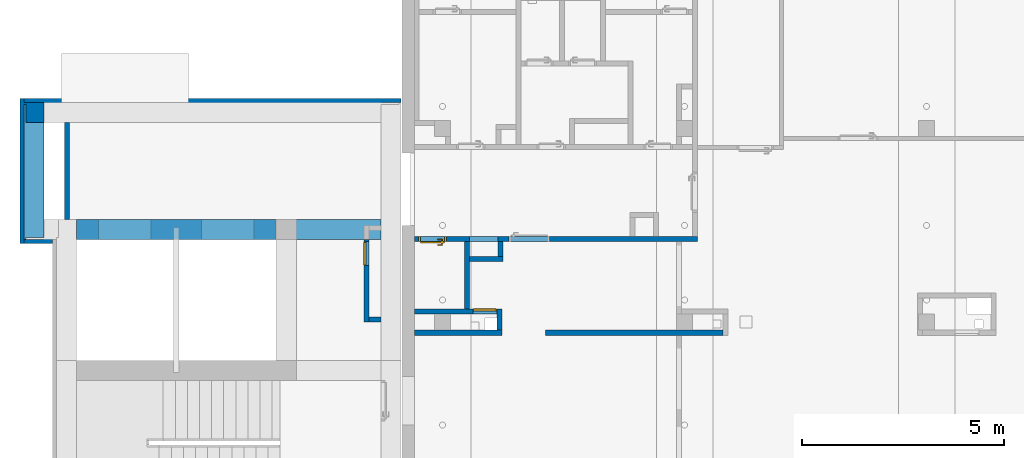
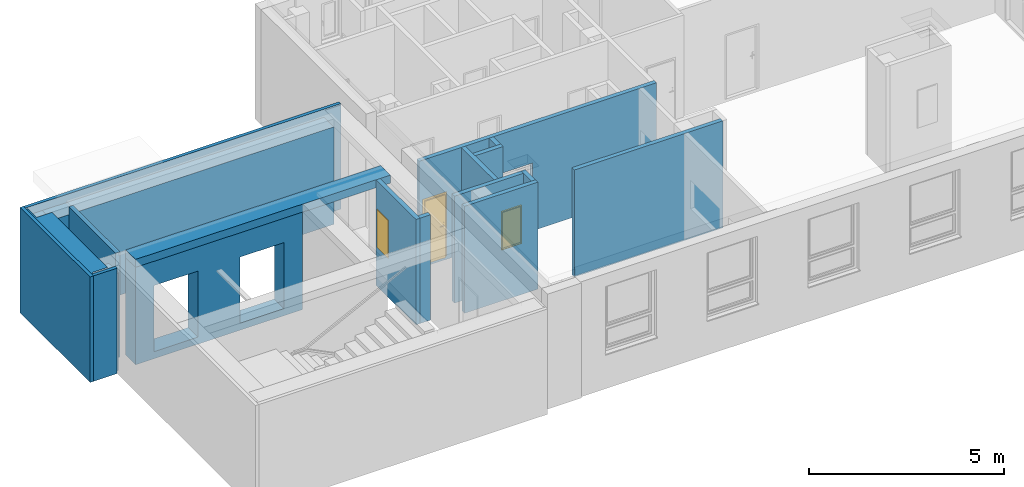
# One storey, part 8 of 50: 17 walls, 2 windows, 1 door, 7 openings.
"""IFC4 building model written with IfcOpenShell, lengths in metres."""

from ifc_helpers import new_model, entity, si_unit, converted_unit, derived_unit, frame, frame_2d, origin, origin_with_axes, place, context, subcontext, project, spatial, polyline, rectangle, outline, extrude, clip, bounded_halfspace, closed_shell, open_shell, faceted_brep, surface_model, source, transform, mapped, material, layer, layer_set, layer_usage, type_object, element, fill, save


model = new_model("IFC4")

# Units and contexts
model_context = context("Model", 3, precision=1e-05, world=origin())
body_context = subcontext(model_context, "Body", "Model", "MODEL_VIEW")
ifc_project = project(units=[si_unit("LENGTHUNIT", "METRE"), si_unit("AREAUNIT", "SQUARE_METRE"), si_unit("VOLUMEUNIT", "CUBIC_METRE"), si_unit("MASSUNIT", "GRAM", prefix="KILO"), converted_unit("PLANEANGLEUNIT", "DEGREE", entity("IfcPlaneAngleMeasure", 0.0174532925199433), si_unit("PLANEANGLEUNIT", "RADIAN"), dimensions=[0, 0, 0, 0, 0, 0, 0]), derived_unit("THERMALTRANSMITTANCEUNIT", [(si_unit("POWERUNIT", "WATT"), 1), (si_unit("THERMODYNAMICTEMPERATUREUNIT", "KELVIN"), -1), (si_unit("LENGTHUNIT", "METRE"), -2)]), derived_unit("VOLUMETRICFLOWRATEUNIT", [(si_unit("LENGTHUNIT", "METRE"), 3), (converted_unit("TIMEUNIT", "hour", entity("IfcTimeMeasure", 3600.0), si_unit("TIMEUNIT", "SECOND"), dimensions=[0, 0, 1, 0, 0, 0, 0]), -1), (si_unit("LENGTHUNIT", "METRE"), -1)])], contexts=[model_context])

# Site, building, storey
site_placement = place(None, origin())
site = spatial("IfcSite", under=ifc_project, at=site_placement, Name="3. ASŘ", CompositionType="ELEMENT")
building_placement = place(site_placement, origin())
building = spatial("IfcBuilding", under=site, at=building_placement, Name="Pavilon C", CompositionType="ELEMENT")
storey_placement = place(building_placement, frame((0.0, 0.0, 3.6)))
storey = spatial("IfcBuildingStorey", under=building, at=storey_placement, Name="Půdorys 2.NP", CompositionType="ELEMENT", Elevation=3.6)

# Walls
ifc_material_1 = material(Name="ZDIVO Z CDm")
ifc_layer_1 = layer(ifc_material_1, 0.125)
ifc_layer_set_1 = layer_set([ifc_layer_1])
ifc_layer_usage_1 = layer_usage(ifc_layer_set_1, "AXIS2", "POSITIVE", 0.0)
wall_1_placement = place(storey_placement, frame((6.95000000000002, 5.2, -0.1), z_axis=(0.0, 0.0, 1.0), x_axis=(-1.0, 0.0, 0.0)))
element("IfcWall", 1, at=wall_1_placement, inside=storey, material=ifc_layer_usage_1, Name="ZDIVO Z CDm", context=body_context, shape_type="SweptSolid", body=[
    extrude(rectangle(XDim=4.4, YDim=0.125, at=frame_2d((2.2, 0.0625), x_axis=(1.0, 0.0))), origin_with_axes(), (0.0, 0.0, 1.0), 3.35),
])
ifc_material_2 = material(Name="ZDIVO Z CDm")
ifc_layer_2 = layer(ifc_material_2, 0.125)
ifc_layer_set_2 = layer_set([ifc_layer_2])
ifc_layer_usage_2 = layer_usage(ifc_layer_set_2, "AXIS2", "POSITIVE", 0.0)
wall_2_placement = place(storey_placement, frame((1.47500000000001, 5.2, -0.1), z_axis=(0.0, 0.0, 1.0), x_axis=(-1.0, 0.0, 0.0)))
element("IfcWall", 2, at=wall_2_placement, inside=storey, material=ifc_layer_usage_2, Name="ZDIVO Z CDm", context=body_context, shape_type="SweptSolid", body=[
    extrude(rectangle(XDim=2.17500000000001, YDim=0.125, at=frame_2d((1.0875, 0.0625), x_axis=(1.0, 0.0))), origin_with_axes(), (0.0, 0.0, 1.0), 3.35),
])
ifc_material_3 = material(Name="ZDIVO Z CDm")
ifc_layer_3 = layer(ifc_material_3, 0.125)
ifc_layer_set_3 = layer_set([ifc_layer_3])
ifc_layer_usage_3 = layer_usage(ifc_layer_set_3, "AXIS2", "POSITIVE", 0.0)
wall_3_placement = place(storey_placement, frame((1.35000000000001, 5.72500000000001, -0.1), z_axis=(0.0, 0.0, 1.0), x_axis=(0.0, -1.0, 0.0)))
element("IfcWall", 3, at=wall_3_placement, inside=storey, material=ifc_layer_usage_3, Name="ZDIVO Z CDm", context=body_context, shape_type="SweptSolid", body=[
    extrude(rectangle(XDim=0.525000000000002, YDim=0.125, at=frame_2d((0.262500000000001, 0.0625), x_axis=(1.0, 0.0))), origin_with_axes(), (0.0, 0.0, 1.0), 3.35),
])

# Wall, opening, window
ifc_material_4 = material(Name="ZDIVO Z CDm")
ifc_layer_4 = layer(ifc_material_4, 0.125)
ifc_layer_set_4 = layer_set([ifc_layer_4])
ifc_layer_usage_4 = layer_usage(ifc_layer_set_4, "AXIS2", "POSITIVE", 0.0)
wall_4_placement = place(storey_placement, frame((-0.699999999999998, 5.60000000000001, -0.1)))
wall_4 = element("IfcWall", 4, at=wall_4_placement, inside=storey, material=ifc_layer_usage_4, Name="ZDIVO Z CDm", context=body_context, shape_type="SweptSolid", body=[
    extrude(rectangle(XDim=2.05000000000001, YDim=0.125, at=frame_2d((1.025, 0.0625), x_axis=(1.0, 0.0))), origin_with_axes(), (0.0, 0.0, 1.0), 3.35),
])
opening_1_placement = place(wall_4_placement, frame((2.05000000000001, 0.125, 1.1), z_axis=(0.0, -1.0, 0.0), x_axis=(0.0, 0.0, 1.0)))
opening_1 = element("IfcOpeningElement", 5, at=opening_1_placement, cuts=wall_4, Name="Okenní otvor", ObjectType="Opening", context=body_context, shape_type="SweptSolid", body=[
    extrude(outline(polyline([(0.0, 0.6), (1.2, 0.6), (1.2, 0.0), (0.0, 0.0), (0.0, 0.6)])), origin_with_axes(), (0.0, 0.0, 1.0), 0.125),
])
shared_shape_1 = source(origin_with_axes(), body_context, "Body", "Brep", [
    faceted_brep([(0.0, 0.0600000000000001, 1.2), (0.0, 0.06, 4.91096680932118e-19), (0.02, 0.06, 4.91096680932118e-19), (0.02, 0.0600000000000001, 1.2), (0.0, 0.01, 6.61433067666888e-18), (0.0, 0.0100000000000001, 1.2), (0.02, 0.0100000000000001, 1.2), (0.02, 0.01, 6.61433067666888e-18)], [[[0, 1, 2, 3]], [[4, 5, 6, 7]], [[1, 0, 5, 4]], [[2, 1, 4, 7]], [[3, 2, 7, 6]], [[0, 3, 6, 5]]], orient=[[False], [False], [False], [False], [False], [False]]),
    faceted_brep([(0.58, 0.0600000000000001, 1.2), (0.58, 0.06, 4.91096680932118e-19), (0.6, 0.06, 4.91096680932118e-19), (0.6, 0.0600000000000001, 1.2), (0.58, 0.01, 6.61433067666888e-18), (0.58, 0.0100000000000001, 1.2), (0.6, 0.0100000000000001, 1.2), (0.6, 0.01, 6.61433067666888e-18)], [[[0, 1, 2, 3]], [[4, 5, 6, 7]], [[1, 0, 5, 4]], [[2, 1, 4, 7]], [[3, 2, 7, 6]], [[0, 3, 6, 5]]], orient=[[False], [False], [False], [False], [False], [False]]),
    faceted_brep([(0.02, 0.06, 0.02), (0.02, 0.06, 4.91096680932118e-19), (0.58, 0.06, 4.91096680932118e-19), (0.58, 0.06, 0.02), (0.02, 0.01, 6.61433067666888e-18), (0.02, 0.01, 0.02), (0.58, 0.01, 0.02), (0.58, 0.01, 6.61433067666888e-18)], [[[0, 1, 2, 3]], [[4, 5, 6, 7]], [[1, 0, 5, 4]], [[2, 1, 4, 7]], [[3, 2, 7, 6]], [[0, 3, 6, 5]]], orient=[[False], [False], [False], [False], [False], [False]]),
    faceted_brep([(0.02, 0.0600000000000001, 1.2), (0.02, 0.0600000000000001, 1.18), (0.58, 0.0600000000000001, 1.18), (0.58, 0.0600000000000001, 1.2), (0.02, 0.0100000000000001, 1.18), (0.02, 0.0100000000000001, 1.2), (0.58, 0.0100000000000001, 1.2), (0.58, 0.0100000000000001, 1.18)], [[[0, 1, 2, 3]], [[4, 5, 6, 7]], [[1, 0, 5, 4]], [[2, 1, 4, 7]], [[3, 2, 7, 6]], [[0, 3, 6, 5]]], orient=[[False], [False], [False], [False], [False], [False]]),
    faceted_brep([(0.02, 0.0100000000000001, 1.18), (0.02, 0.01, 0.02), (0.58, 0.01, 0.02), (0.58, 0.0100000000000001, 1.18), (0.02, 0.0, 0.02), (0.02, 1.4210854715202e-16, 1.18), (0.58, 1.4210854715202e-16, 1.18), (0.58, 0.0, 0.02)], [[[0, 1, 2, 3]], [[4, 5, 6, 7]], [[1, 0, 5, 4]], [[2, 1, 4, 7]], [[3, 2, 7, 6]], [[0, 3, 6, 5]]], orient=[[False], [False], [False], [False], [False], [False]]),
])
window_1_placement = place(opening_1_placement, frame((0.0, 0.6, -0.01), z_axis=(1.0, 0.0, 0.0), x_axis=(0.0, -1.0, 1.22464679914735e-16)))
window_1 = element("IfcWindow", 6, at=window_1_placement, inside=storey, Name="O01", OverallHeight=1.2, OverallWidth=0.6, PartitioningType="USERDEFINED", PredefinedType="WINDOW", context=body_context, shape_type="MappedRepresentation", body=[
    mapped(shared_shape_1, transform((0.0, 0.0, 0.0), x_axis=(1.0, 0.0, 0.0), y_axis=(0.0, -1.0, 0.0), z_axis=(0.0, 0.0, 1.0), scale=1.0)),
])
fill(opening_1, window_1)

# Wall, openings, door
ifc_material_5 = material(Name="ZDIVO Z CDm")
ifc_layer_5 = layer(ifc_material_5, 0.125)
ifc_layer_set_5 = layer_set([ifc_layer_5])
ifc_layer_usage_5 = layer_usage(ifc_layer_set_5, "AXIS2", "POSITIVE", 0.0)
wall_5_placement = place(storey_placement, frame((6.32500000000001, 7.525, -0.1), z_axis=(0.0, 0.0, 1.0), x_axis=(-1.0, 0.0, 0.0)))
wall_5 = element("IfcWall", 7, at=wall_5_placement, inside=storey, material=ifc_layer_usage_5, Name="ZDIVO Z CDm", context=body_context, shape_type="SweptSolid", body=[
    extrude(rectangle(XDim=7.02500000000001, YDim=0.125, at=frame_2d((3.5125, 0.0625), x_axis=(1.0, 0.0))), origin_with_axes(), (0.0, 0.0, 1.0), 3.35),
])
opening_2_placement = place(wall_5_placement, frame((3.67499999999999, 0.0, 0.1), z_axis=(0.0, 1.0, 0.0), x_axis=(0.0, 0.0, 1.0)))
element("IfcOpeningElement", 8, at=opening_2_placement, cuts=wall_5, Name="Dveřní otvor", ObjectType="Opening", context=body_context, shape_type="SweptSolid", body=[
    extrude(outline(polyline([(0.0, 1.0), (2.02, 1.0), (2.02, 0.0), (0.0, 0.0), (0.0, 1.0)])), origin_with_axes(), (0.0, 0.0, 1.0), 0.125),
])
opening_3_placement = place(wall_5_placement, frame((4.95500000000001, 0.0, 0.1), z_axis=(0.0, 1.0, 0.0), x_axis=(0.0, 0.0, 1.0)))
element("IfcOpeningElement", 9, at=opening_3_placement, cuts=wall_5, Name="Dveřní otvor", ObjectType="Opening", context=body_context, shape_type="SweptSolid", body=[
    extrude(outline(polyline([(0.0, 0.7), (2.2, 0.7), (2.2, 0.0), (0.0, 0.0), (0.0, 0.7)])), origin_with_axes(), (0.0, 0.0, 1.0), 0.125),
])
opening_4_placement = place(wall_5_placement, frame((6.92500000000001, 0.125, 0.1), z_axis=(0.0, -1.0, 0.0), x_axis=(0.0, 0.0, 1.0)))
opening_4 = element("IfcOpeningElement", 10, at=opening_4_placement, cuts=wall_5, Name="Dveřní otvor", ObjectType="Opening", context=body_context, shape_type="SweptSolid", body=[
    extrude(outline(polyline([(0.0, 0.7), (2.02, 0.7), (2.02, 0.0), (0.0, 0.0), (0.0, 0.7)])), origin_with_axes(), (0.0, 0.0, 1.0), 0.125),
])
door_type = type_object("IfcDoorType", Name="D101", OperationType="NOTDEFINED", ParameterTakesPrecedence=False, PredefinedType="DOOR")
shared_shape_2 = source(origin_with_axes(), body_context, "Body", "SurfaceModel", [
    surface_model("IfcShellBasedSurfaceModel", [(0.0, 0.125, 2.02), (0.0, 0.125, -7.65404249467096e-18), (0.05, 0.125, -7.65404249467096e-18), (0.05, 0.125, 2.02), (0.0, 0.0, 7.65404249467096e-18), (0.0, 2.41584530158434e-16, 2.02), (0.05, 2.41584530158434e-16, 2.02), (0.05, 0.0, 7.65404249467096e-18)], [closed_shell([[[0, 1, 2, 3]], [[4, 5, 6, 7]], [[1, 0, 5, 4]], [[2, 1, 4, 7]], [[3, 2, 7, 6]], [[0, 3, 6, 5]]], orient=[[False], [False], [False], [False], [False], [False]])]),
    surface_model("IfcShellBasedSurfaceModel", [(0.65, 0.125, 2.02), (0.65, 0.125, -7.65404249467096e-18), (0.7, 0.125, -7.65404249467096e-18), (0.7, 0.125, 2.02), (0.65, 0.0, 7.65404249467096e-18), (0.65, 2.41584530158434e-16, 2.02), (0.7, 2.41584530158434e-16, 2.02), (0.7, 0.0, 7.65404249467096e-18)], [closed_shell([[[0, 1, 2, 3]], [[4, 5, 6, 7]], [[1, 0, 5, 4]], [[2, 1, 4, 7]], [[3, 2, 7, 6]], [[0, 3, 6, 5]]], orient=[[False], [False], [False], [False], [False], [False]])]),
    surface_model("IfcShellBasedSurfaceModel", [(0.05, 0.125, 2.02), (0.05, 0.125, 1.97), (0.65, 0.125, 1.97), (0.65, 0.125, 2.02), (0.05, 2.41584530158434e-16, 1.97), (0.05, 2.41584530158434e-16, 2.02), (0.65, 2.41584530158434e-16, 2.02), (0.65, 2.41584530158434e-16, 1.97)], [closed_shell([[[0, 1, 2, 3]], [[4, 5, 6, 7]], [[1, 0, 5, 4]], [[2, 1, 4, 7]], [[3, 2, 7, 6]], [[0, 3, 6, 5]]], orient=[[False], [False], [False], [False], [False], [False]])]),
    surface_model("IfcShellBasedSurfaceModel", [(0.05, 0.165, 1.97), (0.05, 0.165, -1.25526296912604e-17), (0.65, 0.165, -1.25526296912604e-17), (0.65, 0.165, 1.97), (0.05, 0.125, -7.65404249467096e-18), (0.05, 0.125, 1.97), (0.65, 0.125, 1.97), (0.65, 0.125, -7.65404249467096e-18)], [closed_shell([[[0, 1, 2, 3]], [[4, 5, 6, 7]], [[1, 0, 5, 4]], [[2, 1, 4, 7]], [[3, 2, 7, 6]], [[0, 3, 6, 5]]], orient=[[False], [False], [False], [False], [False], [False]])]),
    surface_model("IfcShellBasedSurfaceModel", [(0.56, 0.125, 1.125), (0.56, 0.125, 0.91), (0.61, 0.125, 0.91), (0.61, 0.125, 1.125), (0.56, 0.115, 0.91), (0.56, 0.115, 1.125), (0.61, 0.115, 1.125), (0.61, 0.115, 0.91)], [closed_shell([[[0, 1, 2, 3]], [[4, 5, 6, 7]], [[1, 0, 5, 4]], [[2, 1, 4, 7]], [[3, 2, 7, 6]], [[0, 3, 6, 5]]], orient=[[False], [False], [False], [False], [False], [False]])]),
    surface_model("IfcShellBasedSurfaceModel", [(0.585, 0.115, 1.06), (0.58, 0.115, 1.05866025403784), (0.576339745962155, 0.115, 1.055), (0.575, 0.115, 1.05), (0.576339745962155, 0.115, 1.045), (0.58, 0.115, 1.04133974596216), (0.585, 0.115, 1.04), (0.59, 0.115, 1.04133974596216), (0.593660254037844, 0.115, 1.045), (0.595, 0.115, 1.05), (0.593660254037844, 0.115, 1.055), (0.59, 0.115, 1.05866025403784), (0.59, 0.0700000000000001, 1.05866025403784), (0.585, 0.0750000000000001, 1.06), (0.593660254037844, 0.0663397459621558, 1.055), (0.595, 0.0650000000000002, 1.05), (0.593660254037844, 0.0663397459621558, 1.045), (0.59, 0.0700000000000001, 1.04133974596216), (0.585, 0.0750000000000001, 1.04), (0.58, 0.0800000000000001, 1.04133974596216), (0.576339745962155, 0.0836602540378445, 1.045), (0.575, 0.0850000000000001, 1.05), (0.576339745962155, 0.0836602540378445, 1.055), (0.58, 0.0800000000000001, 1.05866025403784), (0.47, 0.0700000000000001, 1.05866025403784), (0.47, 0.0750000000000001, 1.06), (0.47, 0.0663397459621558, 1.055), (0.47, 0.0650000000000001, 1.05), (0.47, 0.0663397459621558, 1.045), (0.47, 0.0700000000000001, 1.04133974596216), (0.47, 0.0750000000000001, 1.04), (0.47, 0.0800000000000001, 1.04133974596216), (0.47, 0.0836602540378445, 1.045), (0.47, 0.0850000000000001, 1.05), (0.47, 0.0836602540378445, 1.055), (0.47, 0.0800000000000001, 1.05866025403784)], [open_shell([[[0, 1, 2, 3, 4, 5, 6, 7, 8, 9, 10, 11]], [[0, 11, 12, 13]], [[11, 10, 14, 12]], [[10, 9, 15, 14]], [[9, 8, 16, 15]], [[8, 7, 17, 16]], [[7, 6, 18, 17]], [[6, 5, 19, 18]], [[5, 4, 20, 19]], [[4, 3, 21, 20]], [[3, 2, 22, 21]], [[2, 1, 23, 22]], [[1, 0, 13, 23]], [[13, 12, 24, 25]], [[12, 14, 26, 24]], [[14, 15, 27, 26]], [[15, 16, 28, 27]], [[16, 17, 29, 28]], [[17, 18, 30, 29]], [[18, 19, 31, 30]], [[19, 20, 32, 31]], [[20, 21, 33, 32]], [[21, 22, 34, 33]], [[22, 23, 35, 34]], [[23, 13, 25, 35]]], orient=[[False], [False], [False], [False], [False], [False], [False], [False], [False], [False], [False], [False], [False], [False], [False], [False], [False], [False], [False], [False], [False], [False], [False], [False], [False]])]),
    surface_model("IfcShellBasedSurfaceModel", [(0.56, 0.165, 1.125), (0.61, 0.165, 1.125), (0.61, 0.165, 0.91), (0.56, 0.165, 0.91), (0.56, 0.175, 0.91), (0.61, 0.175, 0.91), (0.61, 0.175, 1.125), (0.56, 0.175, 1.125)], [closed_shell([[[0, 1, 2, 3]], [[4, 5, 6, 7]], [[3, 4, 7, 0]], [[2, 5, 4, 3]], [[1, 6, 5, 2]], [[0, 7, 6, 1]]], orient=[[False], [False], [False], [False], [False], [False]])]),
    surface_model("IfcShellBasedSurfaceModel", [(0.585, 0.175, 1.06), (0.59, 0.175, 1.05866025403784), (0.593660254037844, 0.175, 1.055), (0.595, 0.175, 1.05), (0.593660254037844, 0.175, 1.045), (0.59, 0.175, 1.04133974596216), (0.585, 0.175, 1.04), (0.58, 0.175, 1.04133974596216), (0.576339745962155, 0.175, 1.045), (0.575, 0.175, 1.05), (0.576339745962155, 0.175, 1.055), (0.58, 0.175, 1.05866025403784), (0.585, 0.215, 1.06), (0.59, 0.22, 1.05866025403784), (0.593660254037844, 0.223660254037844, 1.055), (0.595, 0.225, 1.05), (0.593660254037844, 0.223660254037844, 1.045), (0.59, 0.22, 1.04133974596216), (0.585, 0.215, 1.04), (0.58, 0.21, 1.04133974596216), (0.576339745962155, 0.206339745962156, 1.045), (0.575, 0.205, 1.05), (0.576339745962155, 0.206339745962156, 1.055), (0.58, 0.21, 1.05866025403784), (0.47, 0.215, 1.06), (0.47, 0.22, 1.05866025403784), (0.47, 0.223660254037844, 1.055), (0.47, 0.225, 1.05), (0.47, 0.223660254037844, 1.045), (0.47, 0.22, 1.04133974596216), (0.47, 0.215, 1.04), (0.47, 0.21, 1.04133974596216), (0.47, 0.206339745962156, 1.045), (0.47, 0.205, 1.05), (0.47, 0.206339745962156, 1.055), (0.47, 0.21, 1.05866025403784)], [open_shell([[[0, 1, 2, 3, 4, 5, 6, 7, 8, 9, 10, 11]], [[0, 12, 13, 1]], [[1, 13, 14, 2]], [[2, 14, 15, 3]], [[3, 15, 16, 4]], [[4, 16, 17, 5]], [[5, 17, 18, 6]], [[6, 18, 19, 7]], [[7, 19, 20, 8]], [[8, 20, 21, 9]], [[9, 21, 22, 10]], [[10, 22, 23, 11]], [[11, 23, 12, 0]], [[12, 24, 25, 13]], [[13, 25, 26, 14]], [[14, 26, 27, 15]], [[15, 27, 28, 16]], [[16, 28, 29, 17]], [[17, 29, 30, 18]], [[18, 30, 31, 19]], [[19, 31, 32, 20]], [[20, 32, 33, 21]], [[21, 33, 34, 22]], [[22, 34, 35, 23]], [[23, 35, 24, 12]]], orient=[[False], [False], [False], [False], [False], [False], [False], [False], [False], [False], [False], [False], [False], [False], [False], [False], [False], [False], [False], [False], [False], [False], [False], [False], [False]])]),
])
door_placement = place(opening_4_placement, frame((0.0, 2.27373675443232e-16, 0.125), z_axis=(1.0, 0.0, 0.0), x_axis=(0.0, 1.0, -1.22464679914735e-16)))
door = element("IfcDoor", 11, at=door_placement, inside=storey, type_object=door_type, Name="D101", OverallHeight=2.02, OverallWidth=0.7, context=body_context, shape_type="MappedRepresentation", body=[
    mapped(shared_shape_2, transform((0.0, 0.0, 0.0), x_axis=(1.0, 0.0, 0.0), y_axis=(0.0, -1.0, 0.0), z_axis=(0.0, 0.0, 1.0), scale=1.0)),
])
fill(opening_4, door)

# Wall, opening, window
ifc_material_6 = material(Name="ZDIVO Z CDm")
ifc_layer_6 = layer(ifc_material_6, 0.125)
ifc_layer_set_6 = layer_set([ifc_layer_6])
ifc_layer_usage_6 = layer_usage(ifc_layer_set_6, "AXIS2", "POSITIVE", 0.0)
wall_6_placement = place(storey_placement, frame((-1.94999999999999, 7.45, -0.22), z_axis=(0.0, 0.0, 1.0), x_axis=(-1.10913988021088e-16, -1.0, 0.0)))
wall_6 = element("IfcWall", 12, at=wall_6_placement, inside=storey, material=ifc_layer_usage_6, Name="ZDIVO Z CDm", context=body_context, shape_type="SweptSolid", body=[
    extrude(rectangle(XDim=2.05000000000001, YDim=0.125, at=frame_2d((1.02500000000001, 0.0625), x_axis=(1.0, 0.0))), origin_with_axes(), (0.0, 0.0, 1.0), 3.3),
])
opening_5_placement = place(wall_6_placement, frame((0.05000000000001, 5.54569940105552e-18, 1.22), z_axis=(-1.13686837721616e-16, 1.0, 0.0), x_axis=(0.0, 0.0, 1.0)))
opening_5 = element("IfcOpeningElement", 13, at=opening_5_placement, cuts=wall_6, Name="Okenní otvor", ObjectType="Opening", context=body_context, shape_type="SweptSolid", body=[
    extrude(outline(polyline([(0.0, 0.6), (1.2, 0.6), (1.2, 0.0), (0.0, 0.0), (0.0, 0.6)])), origin_with_axes(), (0.0, 0.0, 1.0), 0.125),
])
window_2_placement = place(opening_5_placement, frame((0.0, 0.600000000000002, -0.00999999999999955), z_axis=(1.0, 0.0, 0.0), x_axis=(0.0, -1.0, -1.19691830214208e-16)))
window_2 = element("IfcWindow", 14, at=window_2_placement, inside=storey, Name="O01", OverallHeight=1.2, OverallWidth=0.6, PartitioningType="USERDEFINED", PredefinedType="WINDOW", context=body_context, shape_type="MappedRepresentation", body=[
    mapped(shared_shape_1, transform((0.0, 0.0, 0.0), x_axis=(1.0, 0.0, 0.0), y_axis=(0.0, -1.0, 0.0), z_axis=(0.0, 0.0, 1.0), scale=1.0)),
])
fill(opening_5, window_2)

# Walls
ifc_material_7 = material(Name="ZDIVO Z CDm")
ifc_layer_7 = layer(ifc_material_7, 0.125)
ifc_layer_set_7 = layer_set([ifc_layer_7])
ifc_layer_usage_7 = layer_usage(ifc_layer_set_7, "AXIS2", "POSITIVE", 0.0)
wall_7_placement = place(storey_placement, frame((-1.82499999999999, 5.4, -0.22)))
element("IfcWall", 15, at=wall_7_placement, inside=storey, material=ifc_layer_usage_7, Name="ZDIVO Z CDm", context=body_context, shape_type="SweptSolid", body=[
    extrude(rectangle(XDim=0.299999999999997, YDim=0.125, at=frame_2d((0.149999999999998, 0.0625), x_axis=(1.0, 0.0))), origin_with_axes(), (0.0, 0.0, 1.0), 3.3),
])
ifc_material_8 = material(Name="ZDIVO Z CDm")
ifc_layer_8 = layer(ifc_material_8, 0.125)
ifc_layer_set_8 = layer_set([ifc_layer_8])
ifc_layer_usage_8 = layer_usage(ifc_layer_set_8, "AXIS2", "POSITIVE", 0.0)
wall_8_placement = place(storey_placement, frame((-9.37499999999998, 10.35, -0.22), z_axis=(0.0, 0.0, 1.0), x_axis=(0.0, -1.0, 0.0)))
element("IfcWall", 16, at=wall_8_placement, inside=storey, material=ifc_layer_usage_8, Name="ZDIVO Z CDm", context=body_context, shape_type="SweptSolid", body=[
    extrude(rectangle(XDim=2.4, YDim=0.125, at=frame_2d((1.2, 0.0625), x_axis=(1.0, 0.0))), origin_with_axes(), (0.0, 0.0, 1.0), 3.3),
])
ifc_material_9 = material(Name="ZDIVO Z CDm")
ifc_layer_9 = layer(ifc_material_9, 0.125)
ifc_layer_set_9 = layer_set([ifc_layer_9])
ifc_layer_usage_9 = layer_usage(ifc_layer_set_9, "AXIS2", "POSITIVE", 0.0)
wall_9_placement = place(storey_placement, frame((0.545000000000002, 7.4, -0.1), z_axis=(0.0, 0.0, 1.0), x_axis=(-6.78727389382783e-17, -1.0, 0.0)))
element("IfcWall", 17, at=wall_9_placement, inside=storey, material=ifc_layer_usage_9, Name="ZDIVO Z CDm", context=body_context, shape_type="SweptSolid", body=[
    extrude(rectangle(XDim=1.675, YDim=0.125, at=frame_2d((0.837499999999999, 0.0625), x_axis=(1.0, 0.0))), origin_with_axes(), (0.0, 0.0, 1.0), 3.35),
])
ifc_material_10 = material(Name="ZDIVO Z CDm")
ifc_layer_10 = layer(ifc_material_10, 0.125)
ifc_layer_set_10 = layer_set([ifc_layer_10])
ifc_layer_usage_10 = layer_usage(ifc_layer_set_10, "AXIS2", "POSITIVE", 0.0)
wall_10_placement = place(storey_placement, frame((1.495, 7.025, -0.1), z_axis=(0.0, 0.0, 1.0), x_axis=(-1.0, 0.0, 0.0)))
element("IfcWall", 18, at=wall_10_placement, inside=storey, material=ifc_layer_usage_10, Name="ZDIVO Z CDm", context=body_context, shape_type="SweptSolid", body=[
    extrude(rectangle(XDim=0.825, YDim=0.125, at=frame_2d((0.4125, 0.0625), x_axis=(1.0, 0.0))), origin_with_axes(), (0.0, 0.0, 1.0), 3.35),
])
ifc_material_11 = material(Name="ZDIVO Z CDm")
ifc_layer_11 = layer(ifc_material_11, 0.125)
ifc_layer_set_11 = layer_set([ifc_layer_11])
ifc_layer_usage_11 = layer_usage(ifc_layer_set_11, "AXIS2", "POSITIVE", 0.0)
wall_11_placement = place(storey_placement, frame((1.37, 7.4, -0.1), z_axis=(0.0, 0.0, 1.0), x_axis=(0.0, -1.0, 0.0)))
element("IfcWall", 19, at=wall_11_placement, inside=storey, material=ifc_layer_usage_11, Name="ZDIVO Z CDm", context=body_context, shape_type="SweptSolid", body=[
    extrude(rectangle(XDim=0.375, YDim=0.125, at=frame_2d((0.1875, 0.0625), x_axis=(1.0, 0.0))), origin_with_axes(), (0.0, 0.0, 1.0), 3.35),
])

# Wall, openings
ifc_material_12 = material(Name="ZDIVO Z CDm")
ifc_layer_12 = layer(ifc_material_12, 0.5)
ifc_layer_set_12 = layer_set([ifc_layer_12])
ifc_layer_usage_12 = layer_usage(ifc_layer_set_12, "AXIS2", "POSITIVE", 0.0)
wall_12_placement = place(storey_placement, frame((-4.12499999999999, 7.95, -0.22), z_axis=(0.0, 0.0, 1.0), x_axis=(-1.0, 0.0, 0.0)))
wall_12 = element("IfcWall", 20, at=wall_12_placement, inside=storey, material=ifc_layer_usage_12, Name="ZDIVO Z CDm", context=body_context, shape_type="SweptSolid", body=[
    extrude(rectangle(XDim=4.94999999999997, YDim=0.5, at=frame_2d((2.47499999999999, 0.25), x_axis=(1.0, 0.0))), origin_with_axes(), (0.0, 0.0, 1.0), 3.05),
])
opening_6_placement = place(wall_12_placement, frame((0.55, 0.0, 0.22), z_axis=(0.0, 1.0, 0.0), x_axis=(0.0, 0.0, 1.0)))
element("IfcOpeningElement", 21, at=opening_6_placement, cuts=wall_12, Name="Dveřní otvor", ObjectType="Opening", context=body_context, shape_type="SweptSolid", body=[
    extrude(outline(polyline([(0.0, 1.3), (2.07, 1.3), (2.07, 0.0), (0.0, 0.0), (0.0, 1.3)])), origin_with_axes(), (0.0, 0.0, 1.0), 0.5),
])
opening_7_placement = place(wall_12_placement, frame((3.1, 0.0, 0.22), z_axis=(0.0, 1.0, 0.0), x_axis=(0.0, 0.0, 1.0)))
element("IfcOpeningElement", 22, at=opening_7_placement, cuts=wall_12, Name="Dveřní otvor", ObjectType="Opening", context=body_context, shape_type="SweptSolid", body=[
    extrude(outline(polyline([(0.0, 1.3), (2.07, 1.3), (2.07, 0.0), (0.0, 0.0), (0.0, 1.3)])), origin_with_axes(), (0.0, 0.0, 1.0), 0.5),
])

# Walls
ifc_material_13 = material(Name="EPS")
ifc_layer_13 = layer(ifc_material_13, 0.1)
ifc_material_14 = material(Name="ZDIVO Z CDm")
ifc_layer_14 = layer(ifc_material_14, 0.499999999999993)
ifc_layer_set_13 = layer_set([ifc_layer_13, ifc_layer_14])
ifc_layer_usage_13 = layer_usage(ifc_layer_set_13, "AXIS2", "POSITIVE", -0.1)
wall_13_placement = place(storey_placement, frame((-10.375, 7.35, -0.22)))
element("IfcWall", 23, at=wall_13_placement, inside=storey, material=ifc_layer_usage_13, Name="ZDIVO Z CDm", context=body_context, shape_type="Clipping", body=[
    clip(extrude(outline(polyline([(0.0, 0.0), (0.7, 0.0), (0.7, 0.1), (0.8, 0.1), (0.8, 0.599999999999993), (0.499999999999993, 0.599999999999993), (0.499999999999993, 0.1), (0.0, 0.1), (0.0, 0.0)])), origin_with_axes(), (0.0, 0.0, 1.0), 3.3), bounded_halfspace(frame((0.659999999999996, 0.299999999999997, 3.05), z_axis=(0.0, 0.0, -1.0), x_axis=(1.0, 0.0, 0.0)), True, origin_with_axes(), polyline([(0.7, 0.1), (0.8, 0.1), (0.8, 0.599999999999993), (0.499999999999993, 0.599999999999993), (0.499999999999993, 0.1), (0.7, 0.1)]))),
])
ifc_material_15 = material(Name="EPS")
ifc_layer_15 = layer(ifc_material_15, 0.1)
ifc_material_16 = material(Name="ZDIVO Z CDm")
ifc_layer_16 = layer(ifc_material_16, 0.499999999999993)
ifc_layer_set_14 = layer_set([ifc_layer_15, ifc_layer_16])
ifc_layer_usage_14 = layer_usage(ifc_layer_set_14, "AXIS2", "POSITIVE", -0.1)
wall_14_placement = place(storey_placement, frame((-10.475, 10.95, -0.22), z_axis=(0.0, 0.0, 1.0), x_axis=(0.0, -1.0, 0.0)))
element("IfcWall", 24, at=wall_14_placement, inside=storey, material=ifc_layer_usage_14, Name="ZDIVO Z CDm", context=body_context, shape_type="Clipping", body=[
    clip(extrude(outline(polyline([(-3.6, 0.0), (0.0, 0.0), (0.0, 0.1), (-0.1, 0.1), (-0.1, 0.599999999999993), (-3.5, 0.599999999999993), (-3.5, 0.1), (-3.6, 0.1), (-3.6, 0.0)])), frame((3.6, 0.0, 0.0), z_axis=(0.0, 0.0, 1.0), x_axis=(1.0, 0.0, 0.0)), (0.0, 0.0, 1.0), 3.3), bounded_halfspace(frame((1.8, 0.349999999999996, 3.05), z_axis=(0.0, 0.0, -1.0), x_axis=(1.0, 0.0, 0.0)), True, origin_with_axes(), polyline([(0.1, 0.1), (3.5, 0.1), (3.5, 0.599999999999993), (0.1, 0.599999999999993), (0.1, 0.1)]))),
])
ifc_material_17 = material(Name="EPS")
ifc_layer_17 = layer(ifc_material_17, 0.1)
ifc_material_18 = material(Name="ZDIVO Z CDm")
ifc_layer_18 = layer(ifc_material_18, 0.499999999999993)
ifc_layer_set_15 = layer_set([ifc_layer_17, ifc_layer_18])
ifc_layer_usage_15 = layer_usage(ifc_layer_set_15, "AXIS2", "POSITIVE", -0.1)
wall_15_placement = place(storey_placement, frame((-1.02499999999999, 10.95, -0.22), z_axis=(0.0, 0.0, 1.0), x_axis=(-1.0, 0.0, 0.0)))
element("IfcWall", 25, at=wall_15_placement, inside=storey, material=ifc_layer_usage_15, Name="ZDIVO Z CDm", context=body_context, shape_type="Clipping", body=[
    clip(extrude(outline(polyline([(-9.34999999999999, -0.599999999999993), (0.0, -0.599999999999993), (0.0, -0.499999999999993), (-0.499999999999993, -0.499999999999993), (-0.499999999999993, 0.0), (-8.84999999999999, 0.0), (-8.84999999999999, -0.499999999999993), (-9.34999999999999, -0.499999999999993), (-9.34999999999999, -0.599999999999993)])), frame((9.34999999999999, 0.599999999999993, 0.0), z_axis=(0.0, 0.0, 1.0), x_axis=(1.0, 0.0, 0.0)), (0.0, 0.0, 1.0), 3.3), bounded_halfspace(frame((4.675, 0.349999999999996, 3.05), z_axis=(0.0, 0.0, -1.0), x_axis=(1.0, 0.0, 0.0)), True, origin_with_axes(), polyline([(0.500000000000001, 0.1), (8.85, 0.1), (8.85, 0.599999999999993), (0.500000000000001, 0.599999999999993), (0.500000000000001, 0.1)]))),
])
ifc_material_19 = material(Name="ZELEZOBETONOVÁ KCE")
ifc_layer_19 = layer(ifc_material_19, 0.5)
ifc_layer_set_16 = layer_set([ifc_layer_19])
ifc_layer_usage_16 = layer_usage(ifc_layer_set_16, "AXIS2", "POSITIVE", 0.0)
wall_16_placement = place(storey_placement, frame((-9.07499999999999, 7.45, 2.83)))
element("IfcWall", 26, at=wall_16_placement, inside=storey, material=ifc_layer_usage_16, context=body_context, shape_type="SweptSolid", body=[
    extrude(rectangle(XDim=7.55, YDim=0.5, at=frame_2d((3.775, 0.25), x_axis=(1.0, 0.0))), origin_with_axes(), (0.0, 0.0, 1.0), 0.25),
])
ifc_material_20 = material(Name="ZELEZOBETONOVÁ KCE")
ifc_layer_20 = layer(ifc_material_20, 0.45)
ifc_material_21 = material(Name="LIGNOPOR")
ifc_layer_21 = layer(ifc_material_21, 0.05)
ifc_layer_set_17 = layer_set([ifc_layer_20, ifc_layer_21])
ifc_layer_usage_17 = layer_usage(ifc_layer_set_17, "AXIS2", "POSITIVE", 0.0)
wall_17_placement = place(storey_placement, frame((-9.87499999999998, 7.5, 2.83), z_axis=(0.0, 0.0, 1.0), x_axis=(0.0, 1.0, 0.0)))
element("IfcWall", 27, at=wall_17_placement, inside=storey, material=ifc_layer_usage_17, context=body_context, shape_type="SweptSolid", body=[
    extrude(outline(polyline([(0.05, -0.5), (2.9, -0.5), (2.9, -0.05), (3.35, -0.05), (3.35, 0.0), (0.0, 0.0), (0.0, -0.05), (0.05, -0.05), (0.05, -0.5)])), frame((-0.05, 0.5, 0.0), z_axis=(0.0, 0.0, 1.0), x_axis=(1.0, 0.0, 0.0)), (0.0, 0.0, 1.0), 0.25),
])

save(model, "model.ifc")
